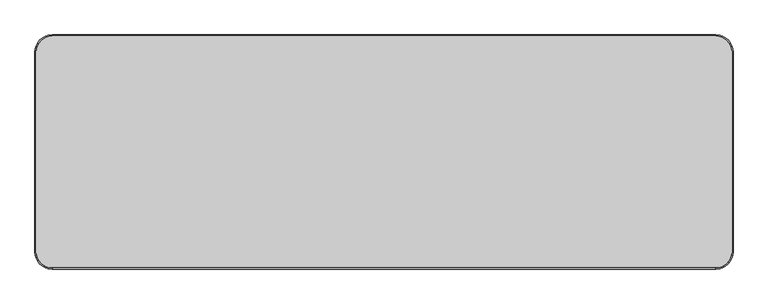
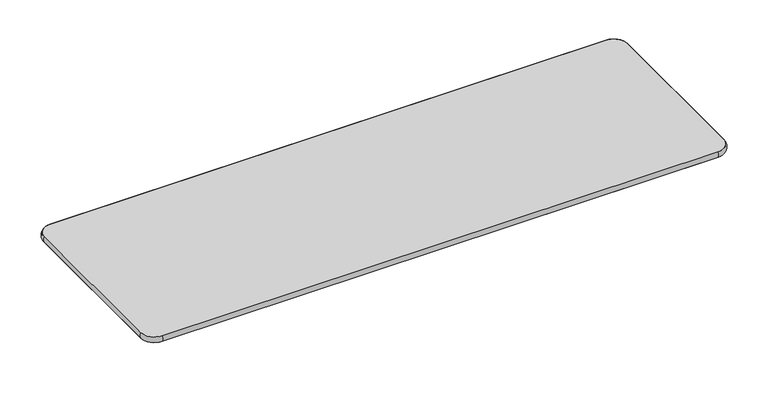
"""IFC4 building model written with IfcOpenShell, lengths in millimetres: furniture geometry, Mesa para refeitório : Mesa para refeitório 180x60cm cód 70471.6."""

from ifc_helpers import new_model, si_unit, point, frame, frame_2d, origin, place, context, project, spatial, polyline, circle_curve, ellipse_curve, trimmed, segment, composite_curve, outline, extrude, source, transform, mapped, element, save
from ifc_brep_helpers import plane_surface, cylinder_surface, revolved_surface, advanced_brep


def furniture_67700c2b(model_context):
    return source(origin(), model_context, "Body", "SolidModel", [
        extrude(outline(composite_curve([segment(polyline([(-805.6618953, -42.5875081), (-867.0206397, -256.5708799), (-879.5170418, -252.9875943)]), True, "CONTINUOUS"), segment(trimmed(circle_curve(frame_2d((-878.138855, -248.1812858)), 5.0), [point((-879.5170418, -252.9875943))], [point((-882.9451635, -246.803099))], False, "CARTESIAN"), True, "CONTINUOUS"), segment(polyline([(-882.9451635, -246.803099), (-824.3872851, -42.5875081), (-805.6618953, -42.5875081)]), True, "CONTINUOUS")], self_intersect=False)), frame((0.0, 0.0, 740.0), z_axis=(0.0, 0.0, 1.0), x_axis=(1.0, 0.0, 0.0)), (0.0, 0.0, 1.0), 2.0),
        extrude(outline(composite_curve([segment(polyline([(805.6618953, 42.5875081), (867.0206397, 256.5708799), (879.5170418, 252.9875943)]), True, "CONTINUOUS"), segment(trimmed(circle_curve(frame_2d((878.138855, 248.1812858)), 5.0), [point((879.5170418, 252.9875943))], [point((882.9451635, 246.803099))], False, "CARTESIAN"), True, "CONTINUOUS"), segment(polyline([(882.9451635, 246.803099), (824.3872851, 42.5875081), (805.6618953, 42.5875081)]), True, "CONTINUOUS")], self_intersect=False)), frame((0.0, 0.0, 740.0), z_axis=(0.0, 0.0, 1.0), x_axis=(1.0, 0.0, 0.0)), (0.0, 0.0, 1.0), 2.0),
        extrude(outline(composite_curve([segment(polyline([(805.6618953, -42.5875081), (824.3872851, -42.5875081), (882.9451635, -246.803099)]), True, "CONTINUOUS"), segment(trimmed(circle_curve(frame_2d((878.138855, -248.1812858)), 5.0), [point((882.9451635, -246.803099))], [point((879.5170418, -252.9875943))], False, "CARTESIAN"), True, "CONTINUOUS"), segment(polyline([(879.5170418, -252.9875943), (867.0206397, -256.5708799), (805.6618953, -42.5875081)]), True, "CONTINUOUS")], self_intersect=False)), frame((0.0, 0.0, 740.0), z_axis=(0.0, 0.0, 1.0), x_axis=(1.0, 0.0, 0.0)), (0.0, 0.0, 1.0), 2.0),
        extrude(outline(composite_curve([segment(polyline([(805.6618953, -42.5875081), (823.7270534, -42.5875081), (823.7270534, -140.8530223)]), True, "CONTINUOUS"), segment(trimmed(circle_curve(frame_2d((818.7270534, -140.8530223)), 5.0), [point((823.7270534, -140.8530223))], [point((818.7270534, -145.8530223))], False, "CARTESIAN"), True, "CONTINUOUS"), segment(polyline([(818.7270534, -145.8530223), (805.6618953, -145.8530223), (805.6618953, -42.5875081)]), True, "CONTINUOUS")], self_intersect=False)), frame((0.0, 0.0, 740.0), z_axis=(0.0, 0.0, 1.0), x_axis=(1.0, 0.0, 0.0)), (0.0, 0.0, 1.0), 2.0),
        extrude(outline(polyline([(-799.6955742, 28.681337), (-799.6955742, -28.681337), (-801.5529394, -28.1300623), (-801.5529394, 28.1300623), (-799.6955742, 28.681337)])), frame((0.0, 0.0, 682.0), z_axis=(0.0, 0.0, 1.0), x_axis=(1.0, 0.0, 0.0)), (0.0, 0.0, 1.0), 60.0),
        extrude(outline(composite_curve([segment(polyline([(-60.1181829, 0.0), (0.0, 0.0), (0.0, -229.4943371)]), True, "CONTINUOUS"), segment(trimmed(circle_curve(frame_2d((-8.0489664, -229.4943371)), 8.0489664), [point((0.0, -229.4943371))], [point((-15.3438074, -232.8959773))], False, "CARTESIAN"), True, "CONTINUOUS"), segment(polyline([(-15.3438074, -232.8959773), (-60.1181829, 0.0)]), True, "CONTINUOUS")], self_intersect=False)), frame((-799.6955742, -28.681337, 742.0), z_axis=(-0.961261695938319, 0.2756373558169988, 0.0), x_axis=(0.0, 0.0, 1.0)), (0.0, 0.0, 1.0), 1.932216),
        extrude(outline(composite_curve([segment(polyline([(60.1181829, 0.0), (15.3438074, -232.8959773)]), True, "CONTINUOUS"), segment(trimmed(circle_curve(frame_2d((8.0489664, -229.4943371)), 8.0489664), [point((15.3438074, -232.8959773))], [point((0.0, -229.4943371))], False, "CARTESIAN"), True, "CONTINUOUS"), segment(polyline([(0.0, -229.4943371), (0.0, 0.0), (60.1181829, 0.0)]), True, "CONTINUOUS")], self_intersect=False)), frame((801.5162894, 28.1300623, 742.0), z_axis=(-0.961261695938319, 0.2756373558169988, 0.0), x_axis=(0.0, 0.0, -1.0)), (0.0, 0.0, 1.0), 2.0),
        extrude(outline(polyline([(799.593766, 28.681337), (801.5162894, 28.1300623), (801.5162894, -28.1300623), (799.593766, -28.681337), (799.593766, 28.681337)])), frame((0.0, 0.0, 682.0), z_axis=(0.0, 0.0, 1.0), x_axis=(1.0, 0.0, 0.0)), (0.0, 0.0, 1.0), 60.0),
        extrude(outline(composite_curve([segment(polyline([(-2.0, -20.0), (-2.0, -266.247878), (-15.0, -266.247878)]), True, "CONTINUOUS"), segment(trimmed(circle_curve(frame_2d((-15.0, -261.247878)), 5.0), [point((-15.0, -266.247878))], [point((-20.0, -261.247878))], False, "CARTESIAN"), True, "CONTINUOUS"), segment(polyline([(-20.0, -261.247878), (-20.0, -20.0), (-2.0, -20.0)]), True, "CONTINUOUS")], self_intersect=False)), frame((0.0, 0.0, 740.0), z_axis=(0.0, 0.0, 1.0), x_axis=(1.0, 0.0, 0.0)), (0.0, 0.0, 1.0), 2.0),
        extrude(outline(composite_curve([segment(polyline([(-20.0, 683.2373612), (-266.247878, 726.6561926)]), True, "CONTINUOUS"), segment(trimmed(circle_curve(frame_2d((-262.8462378, 733.9510336)), 8.0489664), [point((-266.247878, 726.6561926))], [point((-262.8462378, 742.0))], False, "CARTESIAN"), True, "CONTINUOUS"), segment(polyline([(-262.8462378, 742.0), (-20.0, 742.0), (-20.0, 683.2373612)]), True, "CONTINUOUS")], self_intersect=False)), frame((-2.0, 0.0, 0.0), z_axis=(1.0, 0.0, 0.0), x_axis=(0.0, 1.0, 0.0)), (0.0, 0.0, 1.0), 2.0),
        extrude(outline(composite_curve([segment(polyline([(0.0, 0.0), (237.1608757, 0.0)]), True, "CONTINUOUS"), segment(trimmed(circle_curve(frame_2d((235.1976245, -7.8058636)), 8.0489664), [point((237.1608757, 0.0))], [point((236.7172151, -15.7100843))], False, "CARTESIAN"), True, "CONTINUOUS"), segment(polyline([(236.7172151, -15.7100843), (11.3499079, -59.0370689), (0.0, 0.0)]), True, "CONTINUOUS")], self_intersect=False)), frame((799.593766, -28.681337, 681.8818171), z_axis=(0.9612616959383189, 0.27563735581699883, 0.0), x_axis=(0.2706805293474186, -0.943975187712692, 0.1887932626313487)), (0.0, 0.0, 1.0), 2.0),
        extrude(outline(composite_curve([segment(polyline([(-2.0, 20.0), (-20.0, 20.0), (-20.0, 261.247878)]), True, "CONTINUOUS"), segment(trimmed(circle_curve(frame_2d((-15.0, 261.247878)), 5.0), [point((-20.0, 261.247878))], [point((-15.0, 266.247878))], False, "CARTESIAN"), True, "CONTINUOUS"), segment(polyline([(-15.0, 266.247878), (-2.0, 266.247878), (-2.0, 20.0)]), True, "CONTINUOUS")], self_intersect=False)), frame((0.0, 0.0, 740.0), z_axis=(0.0, 0.0, 1.0), x_axis=(1.0, 0.0, 0.0)), (0.0, 0.0, 1.0), 2.0),
        extrude(outline(composite_curve([segment(polyline([(20.0, 683.2373612), (20.0, 742.0), (262.8462378, 742.0)]), True, "CONTINUOUS"), segment(trimmed(circle_curve(frame_2d((262.8462378, 733.9510336)), 8.0489664), [point((262.8462378, 742.0))], [point((266.247878, 726.6561926))], False, "CARTESIAN"), True, "CONTINUOUS"), segment(polyline([(266.247878, 726.6561926), (20.0, 683.2373612)]), True, "CONTINUOUS")], self_intersect=False)), frame((-2.0, 0.0, 0.0), z_axis=(1.0, 0.0, 0.0), x_axis=(0.0, 1.0, 0.0)), (0.0, 0.0, 1.0), 2.0),
        extrude(outline(polyline([(800.0651581, -20.0), (-800.0651581, -20.0), (-800.0651581, 20.0), (800.0651581, 20.0), (800.0651581, -20.0)])), frame((0.0, 0.0, 682.0), z_axis=(0.0, 0.0, 1.0), x_axis=(1.0, 0.0, 0.0)), (0.0, 0.0, 1.0), 60.0),
        advanced_brep(
        [(900.0, -258.1259063, 760.0), (858.1259063, -300.0, 760.0), (858.1259063, -300.0, 742.0), (900.0, -258.1259063, 742.0), (900.0, 258.1259063, 742.0), (900.0, 258.1259063, 760.0), (858.1259063, 300.0, 760.0), (858.1259063, 300.0, 742.0), (-858.2277145, 300.0, 742.0), (-858.2277145, 300.0, 760.0), (-900.0, 258.2277145, 760.0), (-900.0, 258.2277145, 742.0), (-900.0, -258.2277145, 742.0), (-900.0, -258.2277145, 760.0), (-858.2277145, -300.0, 760.0), (-858.2277145, -300.0, 742.0)],
        [
            (0, 1, circle_curve(frame((858.1259063, -258.1259063, 760.0), z_axis=(0.0, 0.0, -1.0), x_axis=(0.0, -1.0, 0.0)), 41.8740937)),
            (1, 2, circle_curve(frame((858.1259063, -286.6032084, 751.0), z_axis=(1.0, 0.0, 0.0), x_axis=(0.0, 1.0, 0.0)), 16.1392077)),
            (2, 3, circle_curve(frame((858.1259063, -258.1259063, 742.0), z_axis=(0.0, 0.0, 1.0), x_axis=(0.0, -1.0, 0.0)), 41.8740937)),
            (3, 0, circle_curve(frame((886.6032084, -258.1259063, 751.0), z_axis=(0.0, -1.0, 0.0), x_axis=(-1.0, 0.0, 0.0)), 16.1392077)),
            (2, 1),
            (0, 3),
            (3, 4),
            (4, 5, circle_curve(frame((886.6032084, 258.1259063, 751.0), z_axis=(0.0, -1.0, 0.0), x_axis=(-1.0, 0.0, 0.0)), 16.1392077)),
            (5, 0),
            (5, 4),
            (6, 5, circle_curve(frame((858.1259063, 258.1259063, 760.0), z_axis=(0.0, 0.0, -1.0), x_axis=(1.0, 0.0, 0.0)), 41.8740937)),
            (4, 7, circle_curve(frame((858.1259063, 258.1259063, 742.0), z_axis=(0.0, 0.0, 1.0), x_axis=(1.0, 0.0, 0.0)), 41.8740937)),
            (7, 6, circle_curve(frame((858.1259063, 286.6032084, 751.0), z_axis=(1.0, 0.0, 0.0), x_axis=(0.0, -1.0, 0.0)), 16.1392077)),
            (6, 7),
            (7, 8),
            (8, 9, circle_curve(frame((-858.2277145, 286.6032084, 751.0), z_axis=(1.0, 0.0, 0.0), x_axis=(0.0, -1.0, 0.0)), 16.1392077)),
            (9, 6),
            (9, 8),
            (10, 9, circle_curve(frame((-858.2277145, 258.2277145, 760.0), z_axis=(0.0, 0.0, -1.0), x_axis=(0.0, 1.0, 0.0)), 41.7722855)),
            (8, 11, circle_curve(frame((-858.2277145, 258.2277145, 742.0), z_axis=(0.0, 0.0, 1.0), x_axis=(0.0, 1.0, 0.0)), 41.7722855)),
            (11, 10, circle_curve(frame((-886.6032084, 258.2277145, 751.0), z_axis=(0.0, 1.0, 0.0), x_axis=(1.0, 0.0, 0.0)), 16.1392077)),
            (10, 11),
            (11, 12),
            (12, 13, circle_curve(frame((-886.6032084, -258.2277145, 751.0), z_axis=(0.0, 1.0, 0.0), x_axis=(1.0, 0.0, 0.0)), 16.1392077)),
            (13, 10),
            (13, 12),
            (14, 13, circle_curve(frame((-858.2277145, -258.2277145, 760.0), z_axis=(0.0, 0.0, -1.0), x_axis=(-1.0, 0.0, 0.0)), 41.7722855)),
            (12, 15, circle_curve(frame((-858.2277145, -258.2277145, 742.0), z_axis=(0.0, 0.0, 1.0), x_axis=(-1.0, 0.0, 0.0)), 41.7722855)),
            (15, 14, circle_curve(frame((-858.2277145, -286.6032084, 751.0), z_axis=(-1.0, 0.0, 0.0), x_axis=(0.0, 1.0, 0.0)), 16.1392077)),
            (14, 15),
            (15, 2),
            (1, 14),
        ],
        [
            revolved_surface(trimmed(ellipse_curve(frame((858.1259063, -286.6032084, 751.0), z_axis=(-1.0, 0.0, 0.0), x_axis=(0.0, 1.0, 0.0)), 16.1392077, 16.1392077), [point((858.1259063, -300.0, 742.0))], [point((858.1259063, -300.0, 760.0))], True, "CARTESIAN"), (858.1259063, -258.1259063, 760.0), (0.0, 0.0, 1.0)),
            revolved_surface(polyline([(858.1259063, -300.0, 760.0), (858.1259063, -300.0, 742.0)]), (858.1259063, -258.1259063, 760.0), (0.0, 0.0, 1.0)),
            cylinder_surface(frame((886.6032084, -258.1259063, 751.0), z_axis=(0.0, -1.0, 0.0), x_axis=(-1.0, 0.0, 0.0)), 16.1392077),
            plane_surface(frame((900.0, -258.1259063, 760.0), z_axis=(-1.0, 0.0, 0.0), x_axis=(0.0, 1.0, 0.0))),
            revolved_surface(trimmed(ellipse_curve(frame((886.6032084, 258.1259063, 751.0), z_axis=(0.0, -1.0, 0.0), x_axis=(-1.0, 0.0, 0.0)), 16.1392077, 16.1392077), [point((900.0, 258.1259063, 742.0))], [point((900.0, 258.1259063, 760.0))], True, "CARTESIAN"), (858.1259063, 258.1259063, 760.0), (0.0, 0.0, 1.0)),
            revolved_surface(polyline([(900.0, 258.1259063, 760.0), (900.0, 258.1259063, 742.0)]), (858.1259063, 258.1259063, 760.0), (0.0, 0.0, 1.0)),
            cylinder_surface(frame((858.1259063, 286.6032084, 751.0), z_axis=(1.0, 0.0, 0.0), x_axis=(0.0, -1.0, 0.0)), 16.1392077),
            plane_surface(frame((858.1259063, 300.0, 760.0), z_axis=(0.0, -1.0, 0.0), x_axis=(-1.0, 0.0, 0.0))),
            revolved_surface(trimmed(ellipse_curve(frame((-858.2277145, 286.6032084, 751.0), z_axis=(1.0, 0.0, 0.0), x_axis=(0.0, -1.0, 0.0)), 16.1392077, 16.1392077), [point((-858.2277145, 300.0, 742.0))], [point((-858.2277145, 300.0, 760.0))], True, "CARTESIAN"), (-858.2277145, 258.2277145, 760.0), (0.0, 0.0, 1.0)),
            revolved_surface(polyline([(-858.2277145, 300.0, 760.0), (-858.2277145, 300.0, 742.0)]), (-858.2277145, 258.2277145, 760.0), (0.0, 0.0, 1.0)),
            cylinder_surface(frame((-886.6032084, 258.2277145, 751.0), z_axis=(0.0, 1.0, 0.0), x_axis=(1.0, 0.0, 0.0)), 16.1392077),
            plane_surface(frame((-900.0, 258.2277145, 760.0), z_axis=(1.0, 0.0, 0.0), x_axis=(0.0, -1.0, 0.0))),
            revolved_surface(trimmed(ellipse_curve(frame((-886.6032084, -258.2277145, 751.0), z_axis=(0.0, 1.0, 0.0), x_axis=(1.0, 0.0, 0.0)), 16.1392077, 16.1392077), [point((-900.0, -258.2277145, 742.0))], [point((-900.0, -258.2277145, 760.0))], True, "CARTESIAN"), (-858.2277145, -258.2277145, 760.0), (0.0, 0.0, 1.0)),
            revolved_surface(polyline([(-900.0, -258.2277145, 760.0), (-900.0, -258.2277145, 742.0)]), (-858.2277145, -258.2277145, 760.0), (0.0, 0.0, 1.0)),
            cylinder_surface(frame((-858.2277145, -286.6032084, 751.0), z_axis=(-1.0, 0.0, 0.0), x_axis=(0.0, 1.0, 0.0)), 16.1392077),
            plane_surface(frame((-858.2277145, -300.0, 760.0), z_axis=(0.0, 1.0, 0.0), x_axis=(1.0, 0.0, 0.0))),
        ],
        [
            (0, [[1, 2, 3, 4]]),
            (1, [[-3, 5, -1, 6]]),
            (2, [[-4, 7, 8, 9]]),
            (3, [[-6, -9, 10, -7]]),
            (4, [[11, -8, 12, 13]]),
            (5, [[-12, -10, -11, 14]]),
            (6, [[-13, 15, 16, 17]]),
            (7, [[-14, -17, 18, -15]]),
            (8, [[19, -16, 20, 21]]),
            (9, [[-20, -18, -19, 22]]),
            (10, [[-21, 23, 24, 25]]),
            (11, [[-22, -25, 26, -23]]),
            (12, [[27, -24, 28, 29]]),
            (13, [[-28, -26, -27, 30]]),
            (14, [[-29, 31, -2, 32]]),
            (15, [[-30, -32, -5, -31]]),
        ],
    ),
        extrude(outline(composite_curve([segment(trimmed(circle_curve(frame_2d((858.1259063, 258.1259063)), 41.8740937), [point((858.1259063, 300.0))], [point((900.0, 258.1259063))], False, "CARTESIAN"), True, "CONTINUOUS"), segment(polyline([(900.0, 258.1259063), (900.0, -258.1259063)]), True, "CONTINUOUS"), segment(trimmed(circle_curve(frame_2d((858.1259063, -258.1259063)), 41.8740937), [point((900.0, -258.1259063))], [point((858.1259063, -300.0))], False, "CARTESIAN"), True, "CONTINUOUS"), segment(polyline([(858.1259063, -300.0), (-858.2277145, -300.0)]), True, "CONTINUOUS"), segment(trimmed(circle_curve(frame_2d((-858.2277145, -258.2277145)), 41.7722855), [point((-858.2277145, -300.0))], [point((-900.0, -258.2277145))], False, "CARTESIAN"), True, "CONTINUOUS"), segment(polyline([(-900.0, -258.2277145), (-900.0, 258.2277145)]), True, "CONTINUOUS"), segment(trimmed(circle_curve(frame_2d((-858.2277145, 258.2277145)), 41.7722855), [point((-900.0, 258.2277145))], [point((-858.2277145, 300.0))], False, "CARTESIAN"), True, "CONTINUOUS"), segment(polyline([(-858.2277145, 300.0), (858.1259063, 300.0)]), True, "CONTINUOUS")], self_intersect=False)), frame((0.0, 0.0, 742.0), z_axis=(0.0, 0.0, 1.0), x_axis=(1.0, 0.0, 0.0)), (0.0, 0.0, 1.0), 18.0),
    ])


if __name__ == "__main__":
    model = new_model("IFC4")
    model_context = context("Model", 3, world=origin())
    ifc_project = project(units=[si_unit("LENGTHUNIT", "METRE", prefix="MILLI")], contexts=[model_context])
    site = spatial("IfcSite", under=ifc_project)
    building = spatial("IfcBuilding", under=site)
    placement = place(None, origin())
    furniture_shape = furniture_67700c2b(model_context)
    element("IfcFurniture", 1, ObjectType="Mesa para refeitório : Mesa para refeitório 180x60cm cód 70471.6", at=placement, inside=building, context=model_context, shape_type="MappedRepresentation", body=[
        mapped(furniture_shape, transform((0.0, 0.0, 0.0), x_axis=(1.0, 0.0, 0.0), y_axis=(0.0, 1.0, 0.0), z_axis=(0.0, 0.0, 1.0))),
    ])
    save(model, "model.ifc")
